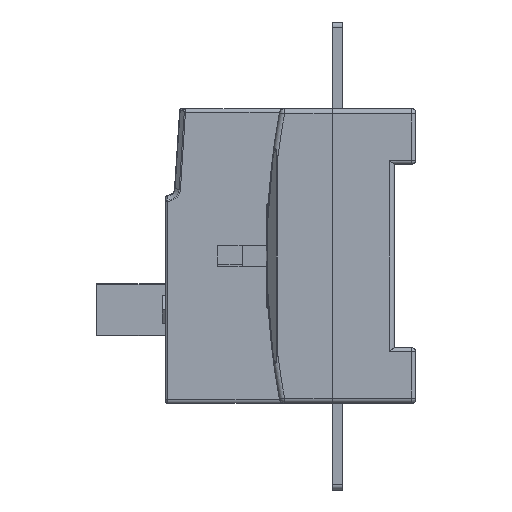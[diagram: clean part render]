
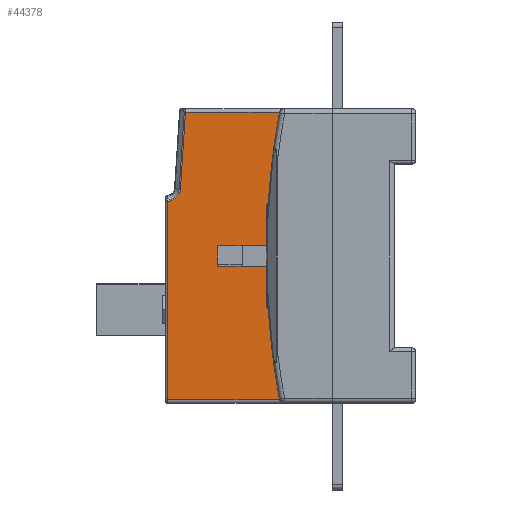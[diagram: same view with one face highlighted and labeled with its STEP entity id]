
A CAD part, left-side view. The second image highlights one B-rep face of the part: STEP entity #44378.
In plain terms, the highlighted planar face has unit normal (-1, 0, 0) as drawn and (1, 0, 0) by its records, which use the part's own axes.
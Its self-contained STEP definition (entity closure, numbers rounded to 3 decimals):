
#41797=DIRECTION('',(0.,1.,0.));
#41798=VECTOR('',#41797,32.5);
#41799=CARTESIAN_POINT('',(30.,0.5,-41.5));
#41800=LINE('',#41799,#41798);
#41805=CARTESIAN_POINT('',(30.,0.5,19.5));
#41806=DIRECTION('',(1.,0.,0.));
#41807=DIRECTION('',(0.,0.,-1.));
#41808=AXIS2_PLACEMENT_3D('',#41805,#41806,#41807);
#41810=DIRECTION('',(0.,0.065,0.998));
#41811=VECTOR('',#41810,22.287);
#41812=CARTESIAN_POINT('',(30.,4.199,19.26));
#41813=LINE('',#41812,#41811);
#41814=DIRECTION('',(0.,0.,-1.));
#41815=VECTOR('',#41814,38.5);
#41816=CARTESIAN_POINT('',(30.,33.,41.5));
#41817=LINE('',#41816,#41815);
#41818=DIRECTION('',(0.,-1.,0.));
#41819=VECTOR('',#41818,18.);
#41820=CARTESIAN_POINT('',(30.,33.,3.));
#41821=LINE('',#41820,#41819);
#41822=DIRECTION('',(0.,0.,-1.));
#41823=VECTOR('',#41822,6.);
#41824=CARTESIAN_POINT('',(30.,15.,3.));
#41825=LINE('',#41824,#41823);
#41826=DIRECTION('',(0.,0.,-1.));
#41827=VECTOR('',#41826,38.5);
#41828=CARTESIAN_POINT('',(30.,33.,-3.));
#41829=LINE('',#41828,#41827);
#41830=DIRECTION('',(0.,0.,-1.));
#41831=VECTOR('',#41830,57.293);
#41832=CARTESIAN_POINT('',(30.,0.5,15.793));
#41833=LINE('',#41832,#41831);
#42436=DIRECTION('',(0.,-1.,0.));
#42437=VECTOR('',#42436,27.354);
#42438=CARTESIAN_POINT('',(30.,33.,41.5));
#42439=LINE('',#42438,#42437);
#42504=DIRECTION('',(0.,-1.,0.));
#42505=VECTOR('',#42504,18.);
#42506=CARTESIAN_POINT('',(30.,33.,-3.));
#42507=LINE('',#42506,#42505);
#43494=CARTESIAN_POINT('',(30.,0.5,-41.5));
#43495=VERTEX_POINT('',#43494);
#43496=CARTESIAN_POINT('',(30.,33.,-41.5));
#43497=VERTEX_POINT('',#43496);
#43498=CARTESIAN_POINT('',(30.,0.5,15.793));
#43499=VERTEX_POINT('',#43498);
#43500=CARTESIAN_POINT('',(30.,4.199,19.26));
#43501=VERTEX_POINT('',#43500);
#43502=CARTESIAN_POINT('',(30.,5.646,41.5));
#43503=VERTEX_POINT('',#43502);
#43504=CARTESIAN_POINT('',(30.,33.,41.5));
#43505=VERTEX_POINT('',#43504);
#43506=CARTESIAN_POINT('',(30.,33.,3.));
#43507=VERTEX_POINT('',#43506);
#43508=CARTESIAN_POINT('',(30.,15.,3.));
#43509=VERTEX_POINT('',#43508);
#43510=CARTESIAN_POINT('',(30.,15.,-3.));
#43511=VERTEX_POINT('',#43510);
#43512=CARTESIAN_POINT('',(30.,33.,-3.));
#43513=VERTEX_POINT('',#43512);
#44352=CARTESIAN_POINT('',(30.,0.,42.5));
#44353=DIRECTION('',(1.,0.,0.));
#44354=DIRECTION('',(0.,0.,-1.));
#44355=AXIS2_PLACEMENT_3D('',#44352,#44353,#44354);
#44356=PLANE('',#44355);
#44358=ORIENTED_EDGE('',*,*,#44357,.F.);
#44360=ORIENTED_EDGE('',*,*,#44359,.T.);
#44362=ORIENTED_EDGE('',*,*,#44361,.T.);
#44364=ORIENTED_EDGE('',*,*,#44363,.F.);
#44366=ORIENTED_EDGE('',*,*,#44365,.T.);
#44368=ORIENTED_EDGE('',*,*,#44367,.T.);
#44370=ORIENTED_EDGE('',*,*,#44369,.T.);
#44372=ORIENTED_EDGE('',*,*,#44371,.F.);
#44374=ORIENTED_EDGE('',*,*,#44373,.T.);
#44375=ORIENTED_EDGE('',*,*,#44344,.F.);
#44376=EDGE_LOOP('',(#44358,#44360,#44362,#44364,#44366,#44368,#44370,#44372,
#44374,#44375));
#44377=FACE_OUTER_BOUND('',#44376,.F.);
#41809=CIRCLE('',#41808,3.707);
#44344=EDGE_CURVE('',#43495,#43497,#41800,.T.);
#44357=EDGE_CURVE('',#43499,#43495,#41833,.T.);
#44359=EDGE_CURVE('',#43499,#43501,#41809,.T.);
#44361=EDGE_CURVE('',#43501,#43503,#41813,.T.);
#44363=EDGE_CURVE('',#43505,#43503,#42439,.T.);
#44365=EDGE_CURVE('',#43505,#43507,#41817,.T.);
#44367=EDGE_CURVE('',#43507,#43509,#41821,.T.);
#44369=EDGE_CURVE('',#43509,#43511,#41825,.T.);
#44371=EDGE_CURVE('',#43513,#43511,#42507,.T.);
#44373=EDGE_CURVE('',#43513,#43497,#41829,.T.);
#44378=ADVANCED_FACE('',(#44377),#44356,.T.);
